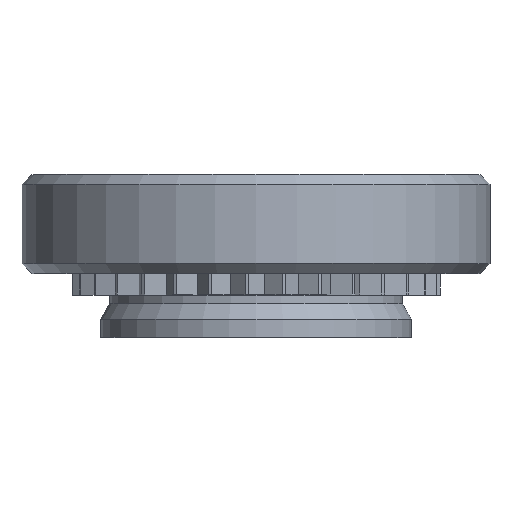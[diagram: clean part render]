
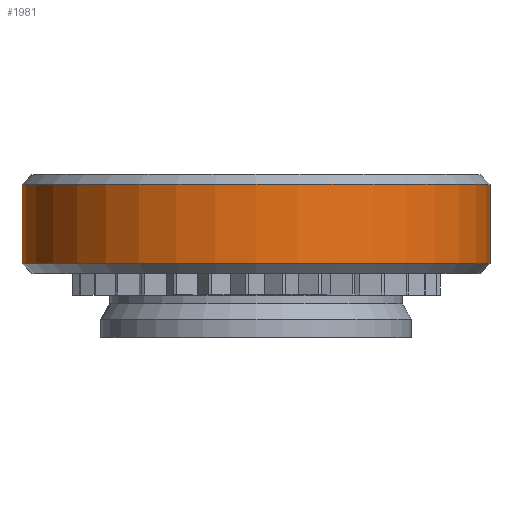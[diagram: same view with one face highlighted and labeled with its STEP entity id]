
A CAD part, top view. The second image highlights one B-rep face of the part: STEP entity #1981.
In plain terms, the highlighted cylindrical face has radius 3.55 mm (diameter 7.1 mm), a full revolution.
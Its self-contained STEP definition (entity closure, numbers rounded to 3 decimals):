
#85=CYLINDRICAL_SURFACE('',#2113,3.55);
#121=FACE_OUTER_BOUND('',#227,.T.);
#227=EDGE_LOOP('',(#1374,#1375,#1376,#1377,#1378,#1379));
#337=LINE('',#2897,#563);
#563=VECTOR('',#2305,3.55);
#789=CIRCLE('',#2111,3.55);
#790=CIRCLE('',#2112,3.55);
#791=CIRCLE('',#2114,3.55);
#792=CIRCLE('',#2115,3.55);
#866=VERTEX_POINT('',#2890);
#867=VERTEX_POINT('',#2892);
#868=VERTEX_POINT('',#2896);
#869=VERTEX_POINT('',#2898);
#1068=EDGE_CURVE('',#866,#867,#789,.T.);
#1069=EDGE_CURVE('',#867,#866,#790,.T.);
#1070=EDGE_CURVE('',#867,#868,#337,.T.);
#1071=EDGE_CURVE('',#869,#868,#791,.T.);
#1072=EDGE_CURVE('',#868,#869,#792,.T.);
#1374=ORIENTED_EDGE('',*,*,#1068,.F.);
#1375=ORIENTED_EDGE('',*,*,#1069,.F.);
#1376=ORIENTED_EDGE('',*,*,#1070,.T.);
#1377=ORIENTED_EDGE('',*,*,#1071,.F.);
#1378=ORIENTED_EDGE('',*,*,#1072,.F.);
#1379=ORIENTED_EDGE('',*,*,#1070,.F.);
#1981=ADVANCED_FACE('',(#121),#85,.T.);
#2111=AXIS2_PLACEMENT_3D('',#2893,#2299,#2300);
#2112=AXIS2_PLACEMENT_3D('',#2894,#2301,#2302);
#2113=AXIS2_PLACEMENT_3D('',#2895,#2303,#2304);
#2114=AXIS2_PLACEMENT_3D('',#2899,#2306,#2307);
#2115=AXIS2_PLACEMENT_3D('',#2900,#2308,#2309);
#2299=DIRECTION('center_axis',(0.,1.,0.));
#2300=DIRECTION('ref_axis',(1.,0.,0.));
#2301=DIRECTION('center_axis',(0.,1.,0.));
#2302=DIRECTION('ref_axis',(1.,0.,0.));
#2303=DIRECTION('center_axis',(0.,1.,0.));
#2304=DIRECTION('ref_axis',(-1.,0.,0.));
#2305=DIRECTION('',(0.,-1.,0.));
#2306=DIRECTION('center_axis',(0.,-1.,0.));
#2307=DIRECTION('ref_axis',(1.,0.,0.));
#2308=DIRECTION('center_axis',(0.,-1.,0.));
#2309=DIRECTION('ref_axis',(1.,0.,0.));
#2890=CARTESIAN_POINT('',(-3.55,2.32,0.));
#2892=CARTESIAN_POINT('',(3.55,2.32,0.));
#2893=CARTESIAN_POINT('Origin',(0.,2.32,0.));
#2894=CARTESIAN_POINT('Origin',(0.,2.32,0.));
#2895=CARTESIAN_POINT('Origin',(0.,1.72,0.));
#2896=CARTESIAN_POINT('',(3.55,1.12,0.));
#2897=CARTESIAN_POINT('',(3.55,1.72,0.));
#2898=CARTESIAN_POINT('',(-3.55,1.12,0.));
#2899=CARTESIAN_POINT('Origin',(0.,1.12,0.));
#2900=CARTESIAN_POINT('Origin',(0.,1.12,0.));
